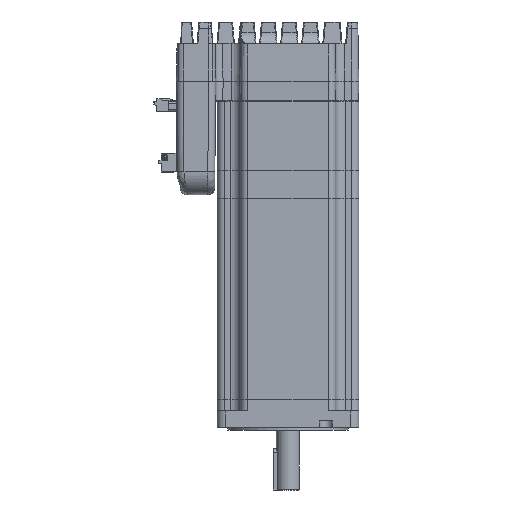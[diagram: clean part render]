
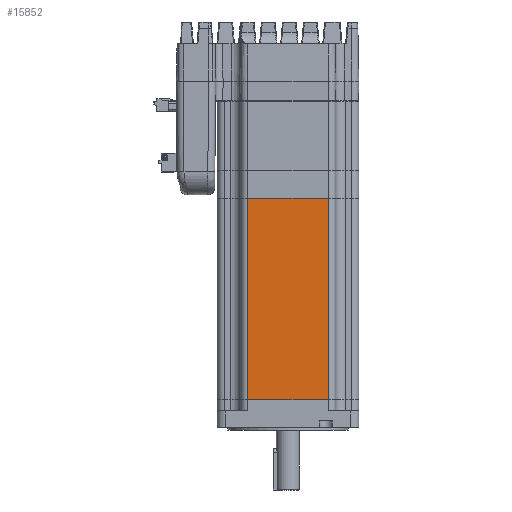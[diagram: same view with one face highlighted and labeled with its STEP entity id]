
A CAD part, front view. The second image highlights one B-rep face of the part: STEP entity #15852.
In plain terms, the highlighted planar face has unit normal (0, -1, 0).
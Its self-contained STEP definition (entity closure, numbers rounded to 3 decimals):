
#15852=ADVANCED_FACE('',(#26781),#20491,.F.);
#20491=PLANE('',#133478);
#26781=FACE_OUTER_BOUND('',#34083,.T.);
#34083=EDGE_LOOP('',(#67460,#67461,#67462,#67463));
#67460=ORIENTED_EDGE('',*,*,#97130,.F.);
#67461=ORIENTED_EDGE('',*,*,#97074,.T.);
#67462=ORIENTED_EDGE('',*,*,#97129,.F.);
#67463=ORIENTED_EDGE('',*,*,#97114,.F.);
#79319=VERTEX_POINT('',#211600);
#79320=VERTEX_POINT('',#211602);
#79357=VERTEX_POINT('',#211680);
#79358=VERTEX_POINT('',#211682);
#97074=EDGE_CURVE('',#79320,#79319,#110401,.T.);
#97114=EDGE_CURVE('',#79357,#79358,#110420,.T.);
#97129=EDGE_CURVE('',#79358,#79319,#110429,.T.);
#97130=EDGE_CURVE('',#79320,#79357,#110430,.T.);
#110401=LINE('',#211601,#123737);
#110420=LINE('',#211681,#123756);
#110429=LINE('',#211711,#123765);
#110430=LINE('',#211713,#123766);
#123737=VECTOR('',#166109,1.);
#123756=VECTOR('',#166174,1.);
#123765=VECTOR('',#166207,1.);
#123766=VECTOR('',#166210,1.);
#133478=AXIS2_PLACEMENT_3D('',#211714,#166211,#166212);
#166109=DIRECTION('',(-1.,0.,0.));
#166174=DIRECTION('',(-1.,0.,0.));
#166207=DIRECTION('',(0.,0.,1.));
#166210=DIRECTION('',(0.,0.,-1.));
#166211=DIRECTION('',(0.,1.,0.));
#166212=DIRECTION('',(-1.,0.,0.));
#211600=CARTESIAN_POINT('',(-32.613,-40.67,44.15));
#211601=CARTESIAN_POINT('',(16.387,-40.67,44.15));
#211602=CARTESIAN_POINT('',(16.387,-40.67,44.15));
#211680=CARTESIAN_POINT('',(16.387,-40.67,-78.));
#211681=CARTESIAN_POINT('',(16.387,-40.67,-78.));
#211682=CARTESIAN_POINT('',(-32.613,-40.67,-78.));
#211711=CARTESIAN_POINT('',(-32.613,-40.67,-78.));
#211713=CARTESIAN_POINT('',(16.387,-40.67,6.15));
#211714=CARTESIAN_POINT('',(-32.613,-40.67,2.));
